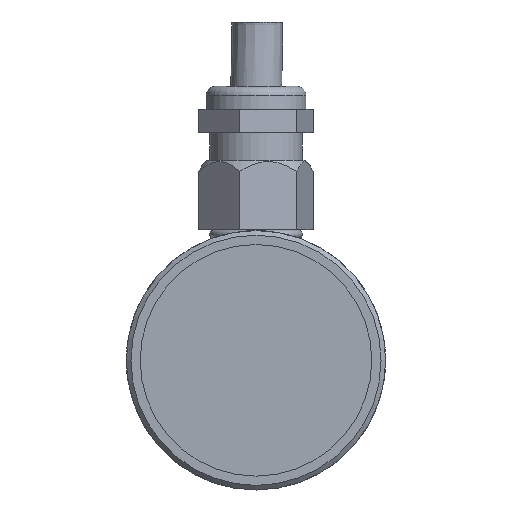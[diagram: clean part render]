
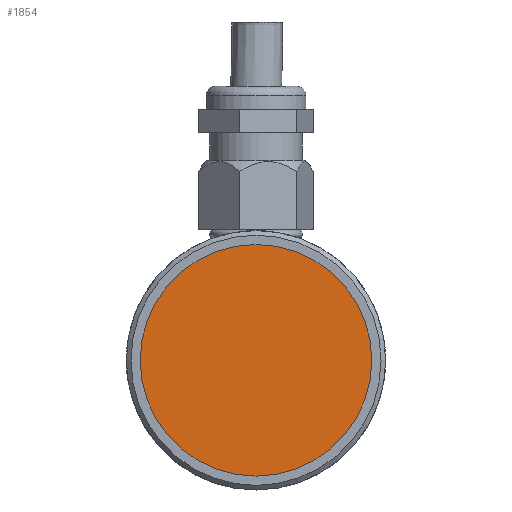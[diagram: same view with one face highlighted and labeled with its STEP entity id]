
A CAD part, left-side view. The second image highlights one B-rep face of the part: STEP entity #1854.
In plain terms, the highlighted planar face has unit normal (-1, 0, 0).
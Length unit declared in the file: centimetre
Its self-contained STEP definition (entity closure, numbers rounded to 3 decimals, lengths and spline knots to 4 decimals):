
#711=CIRCLE('',#1945,1.25);
#768=VERTEX_POINT('',#2402);
#1074=EDGE_CURVE('',#768,#768,#711,.T.);
#1269=ORIENTED_EDGE('',*,*,#1074,.T.);
#1632=EDGE_LOOP('',(#1269));
#1744=FACE_BOUND('',#1632,.T.);
#1854=ADVANCED_FACE('',(#1744),#3473,.T.);
#1945=AXIS2_PLACEMENT_3D('',#2401,#2088,#2089);
#1947=AXIS2_PLACEMENT_3D('',#2405,#2092,$);
#2088=DIRECTION('',(-1.,0.,0.));
#2089=DIRECTION('',(0.,0.,1.25));
#2092=DIRECTION('',(-1.,0.,0.));
#2401=CARTESIAN_POINT('',(0.1,0.,0.));
#2402=CARTESIAN_POINT('',(0.1,0.,1.25));
#2405=CARTESIAN_POINT('',(0.1,0.,0.));
#3473=PLANE('',#1947);
